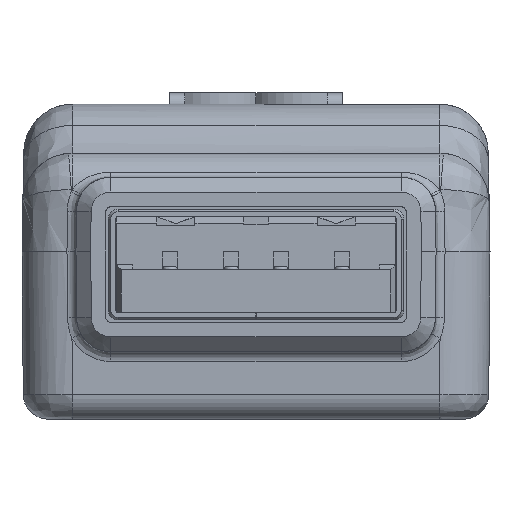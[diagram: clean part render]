
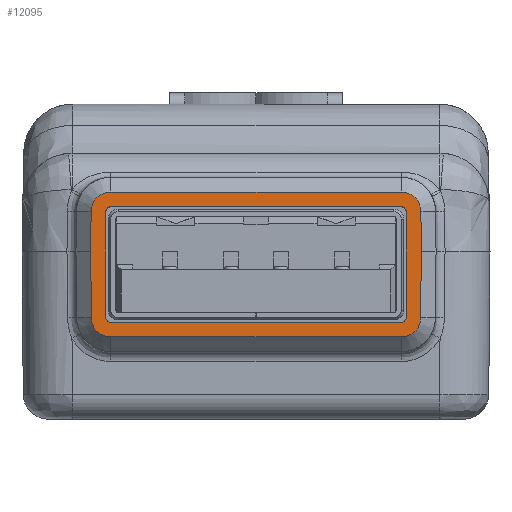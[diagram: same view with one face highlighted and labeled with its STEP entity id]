
A CAD part, left-side view. The second image highlights one B-rep face of the part: STEP entity #12095.
In plain terms, the highlighted planar face has unit normal (-1, 0, 0).
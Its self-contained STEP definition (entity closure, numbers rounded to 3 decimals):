
#1081=FACE_BOUND('',#2428,.T.);
#1123=CIRCLE('',#12376,0.2);
#1124=CIRCLE('',#12379,0.2);
#1218=CIRCLE('',#12637,0.2);
#1219=CIRCLE('',#12639,0.791);
#1221=CIRCLE('',#12643,0.791);
#1239=CIRCLE('',#12710,0.2);
#1265=CIRCLE('',#12900,0.8);
#1267=CIRCLE('',#12904,0.8);
#1778=FACE_OUTER_BOUND('',#2427,.T.);
#2427=EDGE_LOOP('',(#10021,#10022,#10023,#10024,#10025,#10026,#10027,#10028,
#10029,#10030));
#2428=EDGE_LOOP('',(#10031,#10032,#10033,#10034,#10035,#10036,#10037,#10038));
#2756=LINE('',#16468,#3976);
#2759=LINE('',#16476,#3979);
#3037=LINE('',#17513,#4257);
#3045=LINE('',#17535,#4265);
#3048=LINE('',#17545,#4268);
#3108=LINE('',#17848,#4328);
#3502=LINE('',#19529,#4722);
#3505=LINE('',#19540,#4725);
#3508=LINE('',#19549,#4728);
#3523=LINE('',#19894,#4743);
#3976=VECTOR('',#13404,11.8);
#3979=VECTOR('',#13413,2.675);
#4257=VECTOR('',#14201,2.682);
#4265=VECTOR('',#14221,11.8);
#4268=VECTOR('',#14232,2.682);
#4328=VECTOR('',#14424,11.8);
#4722=VECTOR('',#15192,1.632);
#4725=VECTOR('',#15203,11.8);
#4728=VECTOR('',#15214,1.632);
#4743=VECTOR('',#15271,2.675);
#5207=VERTEX_POINT('',#16460);
#5208=VERTEX_POINT('',#16462);
#5209=VERTEX_POINT('',#16466);
#5210=VERTEX_POINT('',#16470);
#5211=VERTEX_POINT('',#16474);
#5508=VERTEX_POINT('',#17511);
#5509=VERTEX_POINT('',#17512);
#5512=VERTEX_POINT('',#17520);
#5513=VERTEX_POINT('',#17522);
#5515=VERTEX_POINT('',#17527);
#5517=VERTEX_POINT('',#17533);
#5519=VERTEX_POINT('',#17539);
#5520=VERTEX_POINT('',#17544);
#5579=VERTEX_POINT('',#17844);
#5905=VERTEX_POINT('',#19527);
#5907=VERTEX_POINT('',#19532);
#5909=VERTEX_POINT('',#19538);
#5911=VERTEX_POINT('',#19544);
#6296=EDGE_CURVE('',#5208,#5207,#1123,.T.);
#6299=EDGE_CURVE('',#5207,#5209,#2756,.T.);
#6301=EDGE_CURVE('',#5209,#5210,#1124,.T.);
#6303=EDGE_CURVE('',#5210,#5211,#2759,.T.);
#6724=EDGE_CURVE('',#5508,#5509,#3037,.T.);
#6729=EDGE_CURVE('',#5513,#5512,#1218,.T.);
#6732=EDGE_CURVE('',#5515,#5508,#1219,.T.);
#6735=EDGE_CURVE('',#5517,#5515,#3045,.T.);
#6738=EDGE_CURVE('',#5519,#5517,#1221,.T.);
#6740=EDGE_CURVE('',#5520,#5519,#3048,.T.);
#6841=EDGE_CURVE('',#5211,#5579,#1239,.T.);
#6842=EDGE_CURVE('',#5579,#5513,#3108,.T.);
#7355=EDGE_CURVE('',#5905,#5520,#3502,.T.);
#7357=EDGE_CURVE('',#5907,#5905,#1265,.T.);
#7360=EDGE_CURVE('',#5909,#5907,#3505,.T.);
#7363=EDGE_CURVE('',#5911,#5909,#1267,.T.);
#7365=EDGE_CURVE('',#5509,#5911,#3508,.T.);
#7402=EDGE_CURVE('',#5512,#5208,#3523,.T.);
#10021=ORIENTED_EDGE('',*,*,#6724,.F.);
#10022=ORIENTED_EDGE('',*,*,#6732,.F.);
#10023=ORIENTED_EDGE('',*,*,#6735,.F.);
#10024=ORIENTED_EDGE('',*,*,#6738,.F.);
#10025=ORIENTED_EDGE('',*,*,#6740,.F.);
#10026=ORIENTED_EDGE('',*,*,#7355,.F.);
#10027=ORIENTED_EDGE('',*,*,#7357,.F.);
#10028=ORIENTED_EDGE('',*,*,#7360,.F.);
#10029=ORIENTED_EDGE('',*,*,#7363,.F.);
#10030=ORIENTED_EDGE('',*,*,#7365,.F.);
#10031=ORIENTED_EDGE('',*,*,#7402,.T.);
#10032=ORIENTED_EDGE('',*,*,#6296,.T.);
#10033=ORIENTED_EDGE('',*,*,#6299,.T.);
#10034=ORIENTED_EDGE('',*,*,#6301,.T.);
#10035=ORIENTED_EDGE('',*,*,#6303,.T.);
#10036=ORIENTED_EDGE('',*,*,#6841,.T.);
#10037=ORIENTED_EDGE('',*,*,#6842,.T.);
#10038=ORIENTED_EDGE('',*,*,#6729,.T.);
#11542=PLANE('',#12927);
#12095=ADVANCED_FACE('',(#1778,#1081),#11542,.F.);
#12376=AXIS2_PLACEMENT_3D('',#16463,#13398,#13399);
#12379=AXIS2_PLACEMENT_3D('',#16472,#13408,#13409);
#12637=AXIS2_PLACEMENT_3D('',#17523,#14208,#14209);
#12639=AXIS2_PLACEMENT_3D('',#17529,#14214,#14215);
#12643=AXIS2_PLACEMENT_3D('',#17541,#14226,#14227);
#12710=AXIS2_PLACEMENT_3D('',#17846,#14420,#14421);
#12900=AXIS2_PLACEMENT_3D('',#19534,#15196,#15197);
#12904=AXIS2_PLACEMENT_3D('',#19546,#15208,#15209);
#12927=AXIS2_PLACEMENT_3D('',#19893,#15269,#15270);
#13398=DIRECTION('center_axis',(1.,0.,0.));
#13399=DIRECTION('ref_axis',(0.,1.,0.));
#13404=DIRECTION('',(0.,-1.,0.));
#13408=DIRECTION('center_axis',(1.,0.,0.));
#13409=DIRECTION('ref_axis',(0.,0.,
1.));
#13413=DIRECTION('',(0.,0.,-1.));
#14201=DIRECTION('',(0.,0.009,1.));
#14208=DIRECTION('center_axis',(1.,0.,0.));
#14209=DIRECTION('ref_axis',(0.,-1.,0.));
#14214=DIRECTION('center_axis',(1.,0.,0.));
#14215=DIRECTION('ref_axis',(0.,1.,-0.009));
#14221=DIRECTION('',(0.,1.,0.));
#14226=DIRECTION('center_axis',(1.,0.,0.));
#14227=DIRECTION('ref_axis',(0.,0.,
-1.));
#14232=DIRECTION('',(0.,0.009,-1.));
#14420=DIRECTION('center_axis',(1.,0.,0.));
#14421=DIRECTION('ref_axis',(0.,0.,
1.));
#14424=DIRECTION('',(0.,1.,0.));
#15192=DIRECTION('',(0.,-0.009,-1.));
#15196=DIRECTION('center_axis',(1.,0.,0.));
#15197=DIRECTION('ref_axis',(0.,0.,
1.));
#15203=DIRECTION('',(0.,-1.,0.));
#15208=DIRECTION('center_axis',(1.,0.,0.));
#15209=DIRECTION('ref_axis',(0.,1.,0.009));
#15214=DIRECTION('',(0.,-0.009,1.));
#15269=DIRECTION('center_axis',(1.,0.,0.));
#15270=DIRECTION('ref_axis',(0.,0.,
-1.));
#15271=DIRECTION('',(0.,0.,1.));
#16460=CARTESIAN_POINT('',(-25.,5.9,2.625));
#16462=CARTESIAN_POINT('',(-25.,6.1,2.425));
#16463=CARTESIAN_POINT('Origin',(-25.,5.9,2.425));
#16466=CARTESIAN_POINT('',(-25.,-5.9,2.625));
#16468=CARTESIAN_POINT('',(-25.,5.9,2.625));
#16470=CARTESIAN_POINT('',(-25.,-6.1,2.425));
#16472=CARTESIAN_POINT('Origin',(-25.,-5.9,2.425));
#16474=CARTESIAN_POINT('',(-25.,-6.1,-1.875));
#16476=CARTESIAN_POINT('',(-25.,-6.1,0.8));
#17511=CARTESIAN_POINT('',(-25.,6.691,-1.882));
#17512=CARTESIAN_POINT('',(-25.,6.714,0.8));
#17513=CARTESIAN_POINT('',(-25.,6.69,-1.919));
#17520=CARTESIAN_POINT('',(-25.,6.1,-1.875));
#17522=CARTESIAN_POINT('',(-25.,5.9,-2.075));
#17523=CARTESIAN_POINT('Origin',(-25.,5.9,-1.875));
#17527=CARTESIAN_POINT('',(-25.,5.9,-2.666));
#17529=CARTESIAN_POINT('Origin',(-25.,5.9,-1.875));
#17533=CARTESIAN_POINT('',(-25.,-5.9,-2.666));
#17535=CARTESIAN_POINT('',(-25.,-2.95,-2.666));
#17539=CARTESIAN_POINT('',(-25.,-6.691,-1.882));
#17541=CARTESIAN_POINT('Origin',(-25.,-5.9,-1.875));
#17544=CARTESIAN_POINT('',(-25.,-6.714,0.8));
#17545=CARTESIAN_POINT('',(-25.,-6.702,-0.576));
#17844=CARTESIAN_POINT('',(-25.,-5.9,-2.075));
#17846=CARTESIAN_POINT('Origin',(-25.,-5.9,-1.875));
#17848=CARTESIAN_POINT('',(-25.,-5.9,-2.075));
#19527=CARTESIAN_POINT('',(-25.,-6.7,2.432));
#19529=CARTESIAN_POINT('',(-25.,-6.698,2.632));
#19532=CARTESIAN_POINT('',(-25.,-5.9,3.225));
#19534=CARTESIAN_POINT('Origin',(-25.,-5.9,2.425));
#19538=CARTESIAN_POINT('',(-25.,5.9,3.225));
#19540=CARTESIAN_POINT('',(-25.,2.95,3.225));
#19544=CARTESIAN_POINT('',(-25.,6.7,2.432));
#19546=CARTESIAN_POINT('Origin',(-25.,5.9,2.425));
#19549=CARTESIAN_POINT('',(-25.,6.705,1.813));
#19893=CARTESIAN_POINT('Origin',(-25.,0.,2.774));
#19894=CARTESIAN_POINT('',(-25.,6.1,-1.875));
